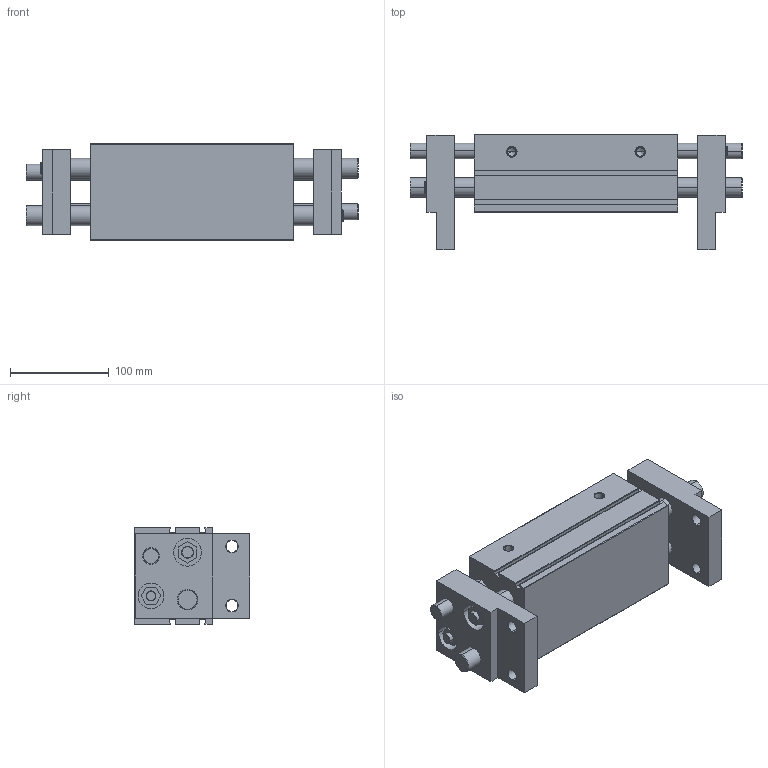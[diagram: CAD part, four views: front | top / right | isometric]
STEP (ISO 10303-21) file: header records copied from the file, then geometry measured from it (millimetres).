
FILE_DESCRIPTION (( 'STEP AP203' ), '1' );
FILE_NAME ('CHL2-40D1.STEP', '2017-06-06T20:00:58', ( '' ), ( '' ), 'SwSTEP 2.0', 'SolidWorks 2016', '' );
FILE_SCHEMA (( 'CONFIG_CONTROL_DESIGN' ));
Length unit declared in the file: millimetre
Products named in the file (3): CHL2-40D1 CORPO; CHL2-40D1 GARRA; CHL2-40D1
Assembly tree (3 placements, depth 2):
  CHL2-40D1
    CHL2-40D1 CORPO
    CHL2-40D1 GARRA  x2
Bounding box: 336 x 117 x 98 mm (x, y, z)
Volume: 2043539.4 mm3; surface area: 293487.4 mm2
Topology: 3 solids, 3 shells, 335 faces, 789 edges, 495 vertices
Faces by surface type: plane 125, cylinder 119, cone 91
Entity records: 7511 total; most frequent: DIRECTION 1342, CARTESIAN_POINT 1207, ORIENTED_EDGE 1158, EDGE_CURVE 579, AXIS2_PLACEMENT_3D 506, VERTEX_POINT 371, LINE 330, VECTOR 330
